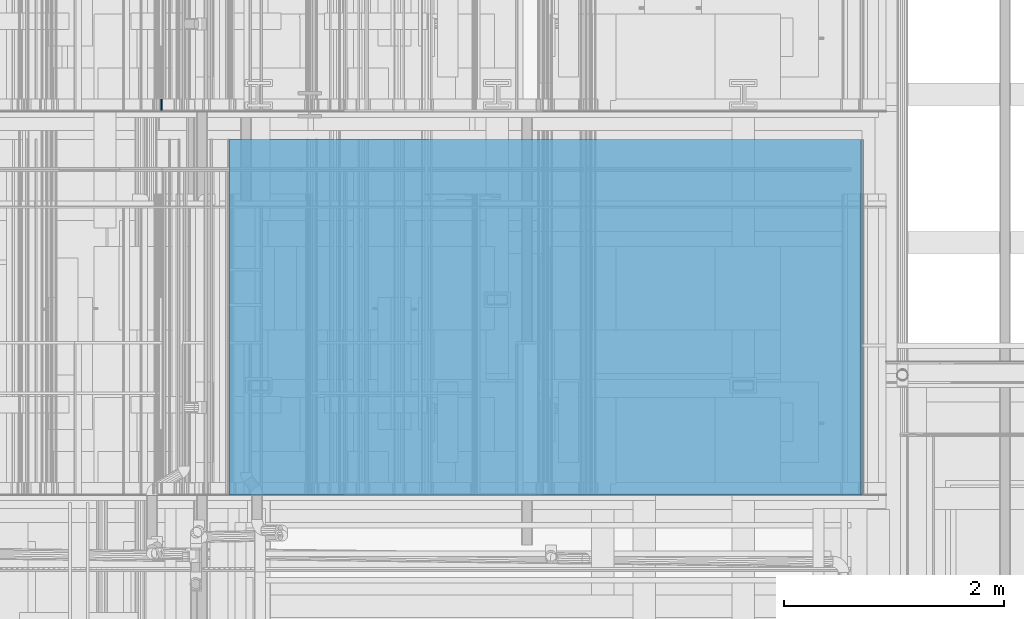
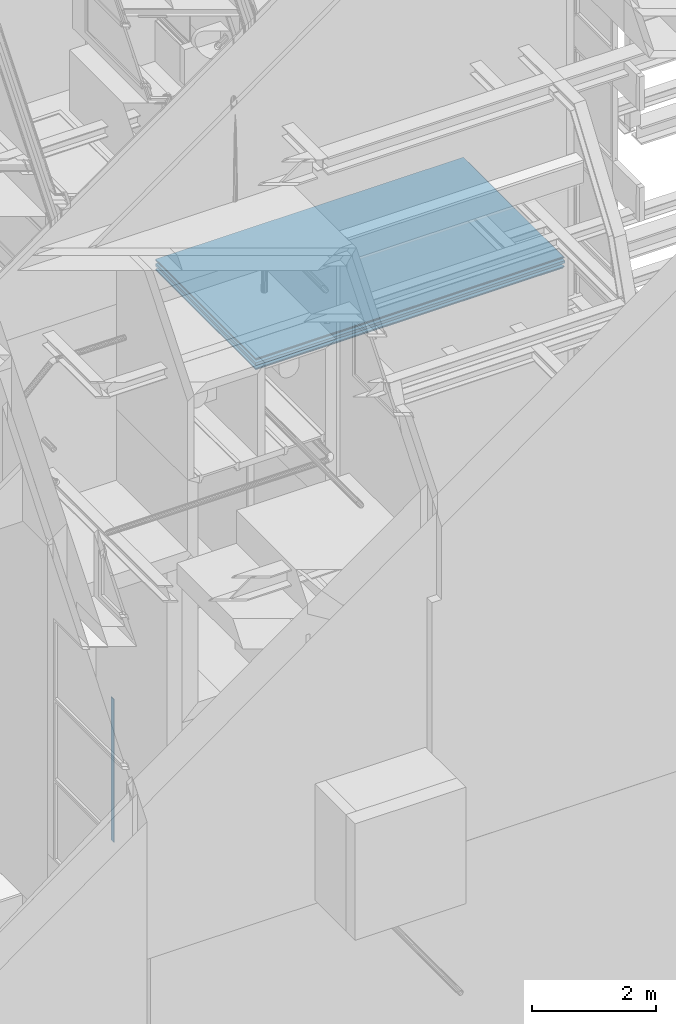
# One storey, part 102 of 583: 6 building element parts, 2 elements without a shape of their own.
"""IFC2X3 building model written with IfcOpenShell, lengths in metres."""

from ifc_helpers import new_model, entity, si_unit, converted_unit, derived_unit, money_unit, direction, frame, frame_2d, origin_with_axes, place, context, subcontext, project, spatial, rectangle, extrude, material, type_object, element, aggregate, save


model = new_model("IFC2X3")

# Units and contexts
model_context = context("Model", 3, precision=1e-05, world=origin_with_axes(), true_north=direction((0.0, 1.0)))
body_context = subcontext(model_context, "Body", "Model", "MODEL_VIEW", scale=1.0)
ifc_project = project(units=[si_unit("LENGTHUNIT", "METRE"), si_unit("AREAUNIT", "SQUARE_METRE"), si_unit("VOLUMEUNIT", "CUBIC_METRE"), si_unit("ABSORBEDDOSEUNIT", "GRAY"), si_unit("AMOUNTOFSUBSTANCEUNIT", "MOLE"), si_unit("DOSEEQUIVALENTUNIT", "SIEVERT"), si_unit("ELECTRICCAPACITANCEUNIT", "FARAD"), si_unit("ELECTRICCHARGEUNIT", "COULOMB"), si_unit("ELECTRICCONDUCTANCEUNIT", "SIEMENS"), si_unit("ELECTRICCURRENTUNIT", "AMPERE"), si_unit("ELECTRICRESISTANCEUNIT", "OHM"), si_unit("ELECTRICVOLTAGEUNIT", "VOLT"), si_unit("ENERGYUNIT", "JOULE"), si_unit("FORCEUNIT", "NEWTON"), si_unit("FREQUENCYUNIT", "HERTZ"), si_unit("ILLUMINANCEUNIT", "LUX"), si_unit("INDUCTANCEUNIT", "HENRY"), si_unit("LUMINOUSFLUXUNIT", "LUMEN"), si_unit("LUMINOUSINTENSITYUNIT", "CANDELA"), si_unit("MAGNETICFLUXDENSITYUNIT", "TESLA"), si_unit("MAGNETICFLUXUNIT", "WEBER"), si_unit("MASSUNIT", "GRAM"), converted_unit("PLANEANGLEUNIT", "degree", entity("IfcReal", 0.0174532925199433), si_unit("PLANEANGLEUNIT", "RADIAN"), dimensions=[0, 0, 0, 0, 0, 0, 0]), si_unit("POWERUNIT", "WATT"), si_unit("PRESSUREUNIT", "PASCAL"), si_unit("RADIOACTIVITYUNIT", "BECQUEREL"), si_unit("SOLIDANGLEUNIT", "STERADIAN"), si_unit("THERMODYNAMICTEMPERATUREUNIT", "KELVIN"), si_unit("TIMEUNIT", "SECOND"), derived_unit("ACCELERATIONUNIT", [(si_unit("LENGTHUNIT", "METRE"), 1), (si_unit("TIMEUNIT", "SECOND"), -2)]), derived_unit("ANGULARVELOCITYUNIT", [(converted_unit("PLANEANGLEUNIT", "degree", entity("IfcReal", 0.0174532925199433), si_unit("PLANEANGLEUNIT", "RADIAN"), dimensions=[0, 0, 0, 0, 0, 0, 0]), 1), (si_unit("TIMEUNIT", "SECOND"), -1)]), derived_unit("CURVATUREUNIT", [(converted_unit("PLANEANGLEUNIT", "degree", entity("IfcReal", 0.0174532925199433), si_unit("PLANEANGLEUNIT", "RADIAN"), dimensions=[0, 0, 0, 0, 0, 0, 0]), 1), (si_unit("LENGTHUNIT", "METRE"), -1)]), derived_unit("DYNAMICVISCOSITYUNIT", [(si_unit("PRESSUREUNIT", "PASCAL"), 1), (si_unit("TIMEUNIT", "SECOND"), 1)]), derived_unit("HEATFLUXDENSITYUNIT", [(si_unit("POWERUNIT", "WATT"), 1), (si_unit("LENGTHUNIT", "METRE"), -2)]), derived_unit("HEATINGVALUEUNIT", [(si_unit("ENERGYUNIT", "JOULE"), 1), (si_unit("MASSUNIT", "GRAM"), -1)]), derived_unit("INTEGERCOUNTRATEUNIT", [(si_unit("TIMEUNIT", "SECOND"), -1)]), derived_unit("IONCONCENTRATIONUNIT", [(si_unit("MASSUNIT", "GRAM"), 1), (si_unit("VOLUMEUNIT", "CUBIC_METRE"), -1)]), derived_unit("ISOTHERMALMOISTURECAPACITYUNIT", [(si_unit("VOLUMEUNIT", "CUBIC_METRE"), 1), (si_unit("MASSUNIT", "GRAM"), -1)]), derived_unit("KINEMATICVISCOSITYUNIT", [(si_unit("AREAUNIT", "SQUARE_METRE"), 1), (si_unit("TIMEUNIT", "SECOND"), -1)]), derived_unit("LINEARFORCEUNIT", [(si_unit("FORCEUNIT", "NEWTON"), 1), (si_unit("LENGTHUNIT", "METRE"), -1)]), derived_unit("LINEARMOMENTUNIT", [(si_unit("FORCEUNIT", "NEWTON"), 1), (si_unit("LENGTHUNIT", "METRE"), -1)]), derived_unit("LINEARSTIFFNESSUNIT", [(si_unit("FORCEUNIT", "NEWTON"), 1), (si_unit("LENGTHUNIT", "METRE"), -1)]), derived_unit("LINEARVELOCITYUNIT", [(si_unit("LENGTHUNIT", "METRE"), 1), (si_unit("TIMEUNIT", "SECOND"), -1)]), derived_unit("LUMINOUSINTENSITYDISTRIBUTIONUNIT", [(si_unit("LUMINOUSINTENSITYUNIT", "CANDELA"), 1), (si_unit("LUMINOUSFLUXUNIT", "LUMEN"), -1)]), derived_unit("MASSDENSITYUNIT", [(si_unit("MASSUNIT", "GRAM"), 1), (si_unit("VOLUMEUNIT", "CUBIC_METRE"), -1)]), derived_unit("MASSFLOWRATEUNIT", [(si_unit("MASSUNIT", "GRAM"), 1), (si_unit("TIMEUNIT", "SECOND"), -1)]), derived_unit("MASSPERLENGTHUNIT", [(si_unit("MASSUNIT", "GRAM"), 1), (si_unit("LENGTHUNIT", "METRE"), -1)]), derived_unit("MODULUSOFELASTICITYUNIT", [(si_unit("FORCEUNIT", "NEWTON"), 1), (si_unit("AREAUNIT", "SQUARE_METRE"), -1)]), derived_unit("MODULUSOFLINEARSUBGRADEREACTIONUNIT", [(si_unit("FORCEUNIT", "NEWTON"), 1), (si_unit("LENGTHUNIT", "METRE"), -2)]), derived_unit("MODULUSOFROTATIONALSUBGRADEREACTIONUNIT", [(si_unit("FORCEUNIT", "NEWTON"), 1), (si_unit("LENGTHUNIT", "METRE"), 1)]), derived_unit("MODULUSOFSUBGRADEREACTIONUNIT", [(si_unit("FORCEUNIT", "NEWTON"), 1), (si_unit("VOLUMEUNIT", "CUBIC_METRE"), -1)]), derived_unit("MOISTUREDIFFUSIVITYUNIT", [(si_unit("VOLUMEUNIT", "CUBIC_METRE"), 1), (si_unit("TIMEUNIT", "SECOND"), -1)]), derived_unit("MOLECULARWEIGHTUNIT", [(si_unit("MASSUNIT", "GRAM"), 1), (si_unit("AMOUNTOFSUBSTANCEUNIT", "MOLE"), -1)]), derived_unit("PLANARFORCEUNIT", [(si_unit("FORCEUNIT", "NEWTON"), 1), (si_unit("LENGTHUNIT", "METRE"), -2)]), derived_unit("ROTATIONALFREQUENCYUNIT", [(si_unit("TIMEUNIT", "SECOND"), -1)]), derived_unit("ROTATIONALMASSUNIT", [(si_unit("MASSUNIT", "GRAM"), 1), (si_unit("LENGTHUNIT", "METRE"), 2)]), derived_unit("ROTATIONALSTIFFNESSUNIT", [(si_unit("FORCEUNIT", "NEWTON"), 1), (si_unit("LENGTHUNIT", "METRE"), 1), (converted_unit("PLANEANGLEUNIT", "degree", entity("IfcReal", 0.0174532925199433), si_unit("PLANEANGLEUNIT", "RADIAN"), dimensions=[0, 0, 0, 0, 0, 0, 0]), -1)]), derived_unit("SECTIONAREAINTEGRALUNIT", [(si_unit("LENGTHUNIT", "METRE"), 5)]), derived_unit("SECTIONMODULUSUNIT", [(si_unit("LENGTHUNIT", "METRE"), 3)]), derived_unit("SHEARMODULUSUNIT", [(si_unit("FORCEUNIT", "NEWTON"), 1), (si_unit("AREAUNIT", "SQUARE_METRE"), -1)]), derived_unit("SOUNDPOWERUNIT", [(si_unit("ENERGYUNIT", "JOULE"), 1), (si_unit("TIMEUNIT", "SECOND"), -1)]), derived_unit("SPECIFICHEATCAPACITYUNIT", [(si_unit("FORCEUNIT", "NEWTON"), 1), (si_unit("MASSUNIT", "GRAM"), -1), (si_unit("THERMODYNAMICTEMPERATUREUNIT", "KELVIN"), -1)]), derived_unit("TEMPERATUREGRADIENTUNIT", [(si_unit("THERMODYNAMICTEMPERATUREUNIT", "KELVIN"), 1), (si_unit("LENGTHUNIT", "METRE"), -1)]), derived_unit("THERMALADMITTANCEUNIT", [(si_unit("POWERUNIT", "WATT"), 1), (si_unit("AREAUNIT", "SQUARE_METRE"), -1), (si_unit("THERMODYNAMICTEMPERATUREUNIT", "KELVIN"), -1)]), derived_unit("THERMALCONDUCTANCEUNIT", [(si_unit("POWERUNIT", "WATT"), 1), (si_unit("LENGTHUNIT", "METRE"), -1), (si_unit("THERMODYNAMICTEMPERATUREUNIT", "KELVIN"), -1)]), derived_unit("THERMALEXPANSIONCOEFFICIENTUNIT", [(si_unit("THERMODYNAMICTEMPERATUREUNIT", "KELVIN"), -1)]), derived_unit("THERMALRESISTANCEUNIT", [(si_unit("AREAUNIT", "SQUARE_METRE"), 1), (si_unit("POWERUNIT", "WATT"), -1)]), derived_unit("THERMALTRANSMITTANCEUNIT", [(si_unit("POWERUNIT", "WATT"), 1), (si_unit("AREAUNIT", "SQUARE_METRE"), -1), (si_unit("THERMODYNAMICTEMPERATUREUNIT", "KELVIN"), -1)]), derived_unit("TORQUEUNIT", [(si_unit("FORCEUNIT", "NEWTON"), 1), (si_unit("LENGTHUNIT", "METRE"), 1)]), derived_unit("VAPORPERMEABILITYUNIT", [(si_unit("MASSUNIT", "GRAM"), 1), (si_unit("TIMEUNIT", "SECOND"), -1)]), derived_unit("VOLUMETRICFLOWRATEUNIT", [(si_unit("VOLUMEUNIT", "CUBIC_METRE"), 1), (si_unit("TIMEUNIT", "SECOND"), -1)]), derived_unit("WARPINGCONSTANTUNIT", [(si_unit("LENGTHUNIT", "METRE"), 6)]), derived_unit("WARPINGMOMENTUNIT", [(si_unit("FORCEUNIT", "NEWTON"), 1), (si_unit("LENGTHUNIT", "METRE"), 2)]), money_unit("GBP")], contexts=[model_context])

# Site, building, storey
site_placement = place(None, origin_with_axes())
site = spatial("IfcSite", under=ifc_project, at=site_placement, Name="Site", CompositionType="ELEMENT")
building_placement = place(site_placement, origin_with_axes())
building = spatial("IfcBuilding", under=site, at=building_placement, Name="Building01", CompositionType="ELEMENT")
storey_placement = place(building_placement, frame((0.0, 0.0, 20.78), z_axis=(0.0, 0.0, 1.0), x_axis=(1.0, 0.0, 0.0)))
storey = spatial("IfcBuildingStorey", under=building, at=storey_placement, Name="RL", CompositionType="ELEMENT", Elevation=20.78)

# Wall, building element parts
wall_type = type_object("IfcWallType", Name="SHE_A-Walls_Type01c_Partywall_225mm_twin_tall", PredefinedType="NOTDEFINED")
wall_1_placement = place(storey_placement, frame((8.82, 5.15, -5.159868), z_axis=(0.0, 1.0, 0.0), x_axis=(1.0, 0.0, 0.0)))
wall_1 = element("IfcWall", 1, at=wall_1_placement, inside=storey, type_object=wall_type, Name="1C", ObjectType="SHE_A-Walls_Type01c_Partywall_225mm_twin_tall")
ifc_material_1 = material(Name="A_BSUK_Insulation")
placement = place(wall_1_placement, origin_with_axes())
building_element_part_1 = element("IfcBuildingElementPart", 2, at=placement, material=ifc_material_1, Name="1", context=body_context, shape_type="SweptSolid", body=[
    extrude(rectangle(XDim=5.774, YDim=0.05, at=frame_2d((2.887, 0.025), x_axis=(-1.0, 0.0))), origin_with_axes(), (0.0, 0.0, 1.0), 3.24),
])
ifc_material_2 = material(Name="A_BSUK_WallInternal_Finishes_Plasterboard")
building_element_part_2 = element("IfcBuildingElementPart", 3, at=placement, material=ifc_material_2, Name="3", context=body_context, shape_type="SweptSolid", body=[
    extrude(rectangle(XDim=5.747, YDim=0.015, at=frame_2d((2.8735, 0.1295), x_axis=(-1.0, 0.0))), origin_with_axes(), (0.0, 0.0, 1.0), 3.24),
])
building_element_part_3 = element("IfcBuildingElementPart", 4, at=placement, material=ifc_material_2, Name="4", context=body_context, shape_type="SweptSolid", body=[
    extrude(rectangle(XDim=5.762, YDim=0.015, at=frame_2d((2.881, 0.1145), x_axis=(-1.0, 0.0))), origin_with_axes(), (0.0, 0.0, 1.0), 3.24),
])
building_element_part_4 = element("IfcBuildingElementPart", 5, at=placement, material=ifc_material_2, Name="5", context=body_context, shape_type="SweptSolid", body=[
    extrude(rectangle(XDim=5.762, YDim=0.015, at=frame_2d((2.881, -0.0655), x_axis=(-1.0, 0.0))), origin_with_axes(), (0.0, 0.0, 1.0), 3.24),
])
building_element_part_5 = element("IfcBuildingElementPart", 6, at=placement, material=ifc_material_2, Name="6", context=body_context, shape_type="SweptSolid", body=[
    extrude(rectangle(XDim=5.747, YDim=0.015, at=frame_2d((2.8735, -0.0805), x_axis=(-1.0, 0.0))), origin_with_axes(), (0.0, 0.0, 1.0), 3.24),
])
aggregate(wall_1, [building_element_part_1, building_element_part_2, building_element_part_3, building_element_part_4, building_element_part_5])

# Wall, building element part
wall_2_placement = place(storey_placement, frame((8.34767, 8.64, -13.628331), z_axis=(0.0, 1.0, 0.0), x_axis=(0.0, 0.0, -1.0)))
wall_2 = element("IfcWall", 7, at=wall_2_placement, inside=storey, type_object=wall_type, Name="1C", ObjectType="SHE_A-Walls_Type01c_Partywall_225mm_twin_tall")
ifc_material_3 = material(Name="A_BSUK_Walls_Timber")
building_element_part_6_placement = place(wall_2_placement, origin_with_axes())
building_element_part_6 = element("IfcBuildingElementPart", 8, at=building_element_part_6_placement, material=ifc_material_3, Name="2", context=body_context, shape_type="SweptSolid", body=[
    extrude(rectangle(XDim=2.823939, YDim=0.015, at=frame_2d((1.498969, 0.1445), x_axis=(-1.0, 0.0))), frame((0.0, 0.0, 0.015), z_axis=(0.0, 0.0, 1.0), x_axis=(1.0, 0.0, 0.0)), (0.0, 0.0, 1.0), 0.1),
])
aggregate(wall_2, [building_element_part_6])

save(model, "model.ifc")
